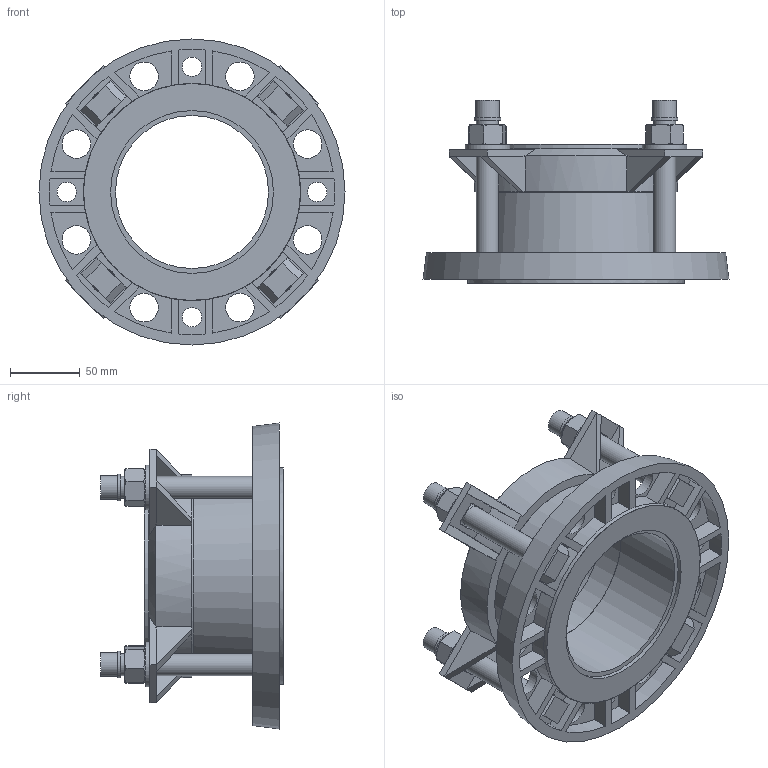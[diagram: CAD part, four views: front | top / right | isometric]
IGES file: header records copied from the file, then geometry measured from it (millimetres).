
Start section: SolidWorks IGES file using analytic representation for surfaces
Global section: file name: \\avksan2\techshare\PBM outline export from Enovia\O_623_10_DN100-110mm_X1XXXXX_REV01.igs; native system: SolidWorks 2019; preprocessor: SolidWorks 2019; author: pbm; date: 200417.102631; units: millimetre
Bounding box: 220 x 131.5 x 220 mm (x, y, z)
Surface area: 215246.7 mm2 (no closed solid volume)
Topology: 0 solids, 0 shells, 405 faces, 1976 edges, 1920 vertices
Faces by surface type: bspline 241, revolution 164
